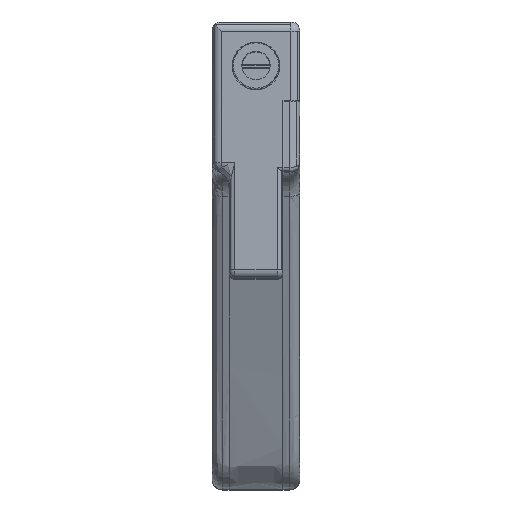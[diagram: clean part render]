
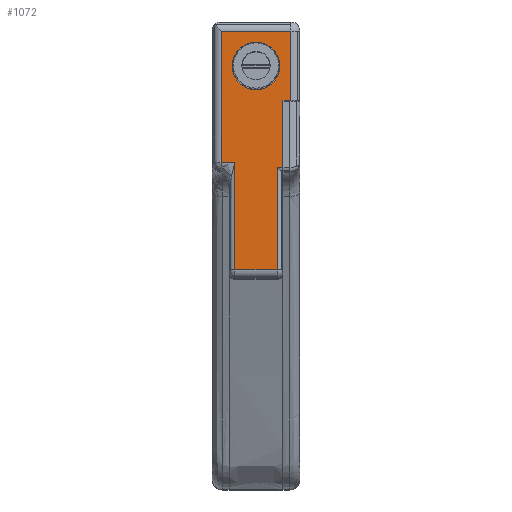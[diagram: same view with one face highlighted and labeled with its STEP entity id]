
A CAD part, top view. The second image highlights one B-rep face of the part: STEP entity #1072.
In plain terms, the highlighted planar face has unit normal (0, 0, 1).
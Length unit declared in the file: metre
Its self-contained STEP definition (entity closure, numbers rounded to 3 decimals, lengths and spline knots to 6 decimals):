
#1072=ADVANCED_FACE('106:1301',(#2422,#2423),#2424,.T.);
#2422=FACE_OUTER_BOUND('',#7853,.T.);
#2423=FACE_BOUND('',#7854,.T.);
#2424=PLANE('',#7855);
#7853=EDGE_LOOP('',(#26719,#26720,#26721,#26722,#26723,#26724,#26725,#26726,#26727,#26728));
#7854=EDGE_LOOP('',(#26729,#26730));
#7855=AXIS2_PLACEMENT_3D('',#26731,#26732,#26733);
#26719=ORIENTED_EDGE('',*,*,#30710,.F.);
#26720=ORIENTED_EDGE('',*,*,#30653,.F.);
#26721=ORIENTED_EDGE('',*,*,#30711,.T.);
#26722=ORIENTED_EDGE('',*,*,#30712,.F.);
#26723=ORIENTED_EDGE('',*,*,#30713,.F.);
#26724=ORIENTED_EDGE('',*,*,#30714,.F.);
#26725=ORIENTED_EDGE('',*,*,#30715,.F.);
#26726=ORIENTED_EDGE('',*,*,#30716,.F.);
#26727=ORIENTED_EDGE('',*,*,#30588,.F.);
#26728=ORIENTED_EDGE('',*,*,#30717,.T.);
#26729=ORIENTED_EDGE('',*,*,#30502,.T.);
#26730=ORIENTED_EDGE('',*,*,#30718,.T.);
#26731=CARTESIAN_POINT('',(-0.008573,-0.017907,0.14224));
#26732=DIRECTION('',(0.0,0.0,1.0));
#26733=DIRECTION('',(0.0,-1.0,0.0));
#30502=EDGE_CURVE('99:141',#32721,#32718,#32722,.T.);
#30588=EDGE_CURVE('79:22048',#32871,#32873,#32874,.T.);
#30653=EDGE_CURVE('121:2669',#32982,#32984,#32985,.T.);
#30710=EDGE_CURVE('79:21885',#32984,#33071,#33072,.T.);
#30711=EDGE_CURVE('106:1395',#32982,#33073,#33074,.T.);
#30712=EDGE_CURVE('106:1322',#33075,#33073,#33076,.F.);
#30713=EDGE_CURVE('116:85',#33077,#33075,#33078,.T.);
#30714=EDGE_CURVE('116:73',#33079,#33077,#33080,.T.);
#30715=EDGE_CURVE('115:19790',#33081,#33079,#33082,.T.);
#30716=EDGE_CURVE('115:26344',#32873,#33081,#33083,.T.);
#30717=EDGE_CURVE('78:779',#32871,#33071,#33084,.T.);
#30718=EDGE_CURVE('',#32718,#32721,#33085,.T.);
#32718=VERTEX_POINT('',#36466);
#32721=VERTEX_POINT('',#36470);
#32722=CIRCLE('',#36471,0.005334);
#32871=VERTEX_POINT('',#36706);
#32873=VERTEX_POINT('',#36708);
#32874=LINE('',#36709,#36710);
#32982=VERTEX_POINT('',#36930);
#32984=VERTEX_POINT('',#36932);
#32985=LINE('',#36933,#36934);
#33071=VERTEX_POINT('',#37068);
#33072=LINE('',#37069,#37070);
#33073=VERTEX_POINT('',#37071);
#33074=LINE('',#37072,#37073);
#33075=VERTEX_POINT('',#37074);
#33076=LINE('',#37075,#37076);
#33077=VERTEX_POINT('',#37077);
#33078=LINE('',#37078,#37079);
#33079=VERTEX_POINT('',#37080);
#33080=LINE('',#37081,#37082);
#33081=VERTEX_POINT('',#37083);
#33082=LINE('',#37084,#37085);
#33083=LINE('',#37086,#37087);
#33084=LINE('',#37088,#37089);
#33085=CIRCLE('',#37090,0.005334);
#36466=CARTESIAN_POINT('',(0.005334,0.,0.14224));
#36470=CARTESIAN_POINT('',(-0.005334,0.,0.14224));
#36471=AXIS2_PLACEMENT_3D('',#42111,#42112,#42113);
#36706=CARTESIAN_POINT('',(-0.004763,-0.045657,0.14224));
#36708=CARTESIAN_POINT('',(-0.004763,-0.021527,0.14224));
#36709=CARTESIAN_POINT('',(-0.004763,-0.020257,0.14224));
#36710=VECTOR('',#42244,1.0);
#36930=CARTESIAN_POINT('',(0.006033,-0.022796,0.14224));
#36932=CARTESIAN_POINT('',(0.004763,-0.022796,0.14224));
#36933=CARTESIAN_POINT('',(0.008055,-0.022796,0.14224));
#36934=VECTOR('',#42344,1.0);
#37068=CARTESIAN_POINT('',(0.004763,-0.045657,0.14224));
#37069=CARTESIAN_POINT('',(0.004763,-0.020257,0.14224));
#37070=VECTOR('',#42439,1.0);
#37071=CARTESIAN_POINT('',(0.006033,-0.007659,0.14224));
#37072=CARTESIAN_POINT('',(0.006033,-0.020257,0.14224));
#37073=VECTOR('',#42440,1.0);
#37074=CARTESIAN_POINT('',(0.007811,-0.007659,0.14224));
#37075=CARTESIAN_POINT('',(-0.016256,-0.007659,0.14224));
#37076=VECTOR('',#42441,1.0);
#37077=CARTESIAN_POINT('',(0.007811,0.007811,0.14224));
#37078=CARTESIAN_POINT('',(0.007811,-0.020257,0.14224));
#37079=VECTOR('',#42442,1.0);
#37080=CARTESIAN_POINT('',(-0.007811,0.007811,0.14224));
#37081=CARTESIAN_POINT('',(-0.008573,0.007811,0.14224));
#37082=VECTOR('',#42443,1.0);
#37083=CARTESIAN_POINT('',(-0.007811,-0.021527,0.14224));
#37084=CARTESIAN_POINT('',(-0.007811,-0.020257,0.14224));
#37085=VECTOR('',#42444,1.0);
#37086=CARTESIAN_POINT('',(-0.001905,-0.021527,0.14224));
#37087=VECTOR('',#42445,1.0);
#37088=CARTESIAN_POINT('',(-0.008573,-0.045657,0.14224));
#37089=VECTOR('',#42446,1.0);
#37090=AXIS2_PLACEMENT_3D('',#42447,#42448,#42449);
#42111=CARTESIAN_POINT('',(0.0,0.0,0.14224));
#42112=DIRECTION('',(0.0,0.0,-1.0));
#42113=DIRECTION('',(1.0,0.0,0.0));
#42244=DIRECTION('',(0.0,1.0,-0.0));
#42344=DIRECTION('',(-1.0,0.,0.0));
#42439=DIRECTION('',(-0.0,-1.0,0.0));
#42440=DIRECTION('',(0.0,1.0,-0.0));
#42441=DIRECTION('',(1.0,0.0,0.0));
#42442=DIRECTION('',(-0.0,-1.0,0.0));
#42443=DIRECTION('',(1.0,-0.0,-0.0));
#42444=DIRECTION('',(-0.0,1.0,-0.0));
#42445=DIRECTION('',(-1.0,-0.0,0.0));
#42446=DIRECTION('',(1.0,0.0,0.0));
#42447=CARTESIAN_POINT('',(0.0,0.0,0.14224));
#42448=DIRECTION('',(0.0,0.0,-1.0));
#42449=DIRECTION('',(1.0,0.0,0.0));
